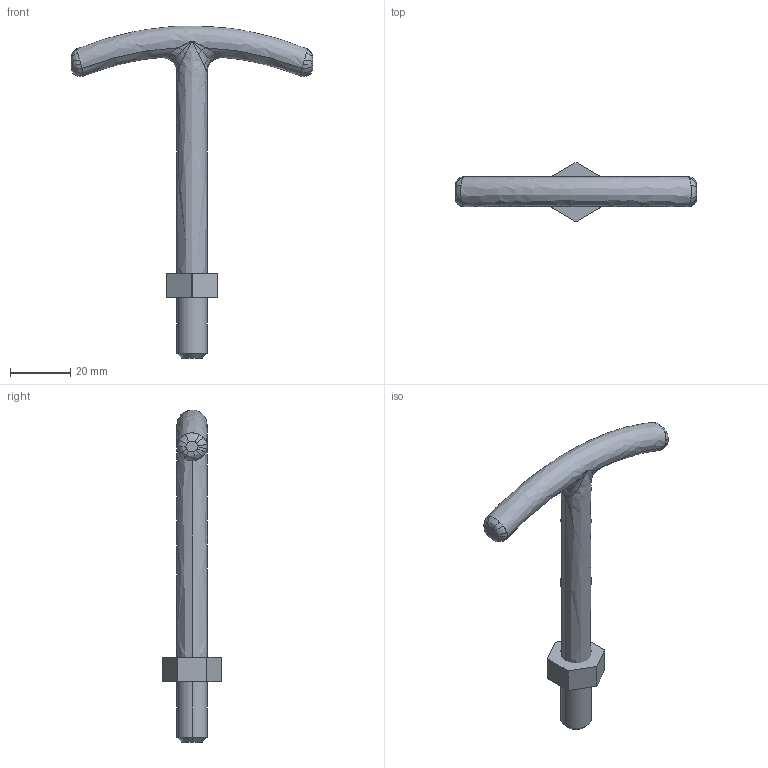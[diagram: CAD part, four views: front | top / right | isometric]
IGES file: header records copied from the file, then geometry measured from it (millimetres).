
Global section: file name: E:\UnigraphicsGraphicData\MISUMI_PRESS-PARTS\IGES\3d_tb10-110_05658_r00.igs; native system: NX V5.0; preprocessor: UGS NX IGES V5.0; author: MISUMI; date: 20110105.163350; units: millimetre
Bounding box: 80 x 19.63 x 109.92 mm (x, y, z)
Surface area: 6704.7 mm2 (no closed solid volume)
Topology: 0 solids, 0 shells, 77 faces, 469 edges, 463 vertices
Faces by surface type: bspline 77
